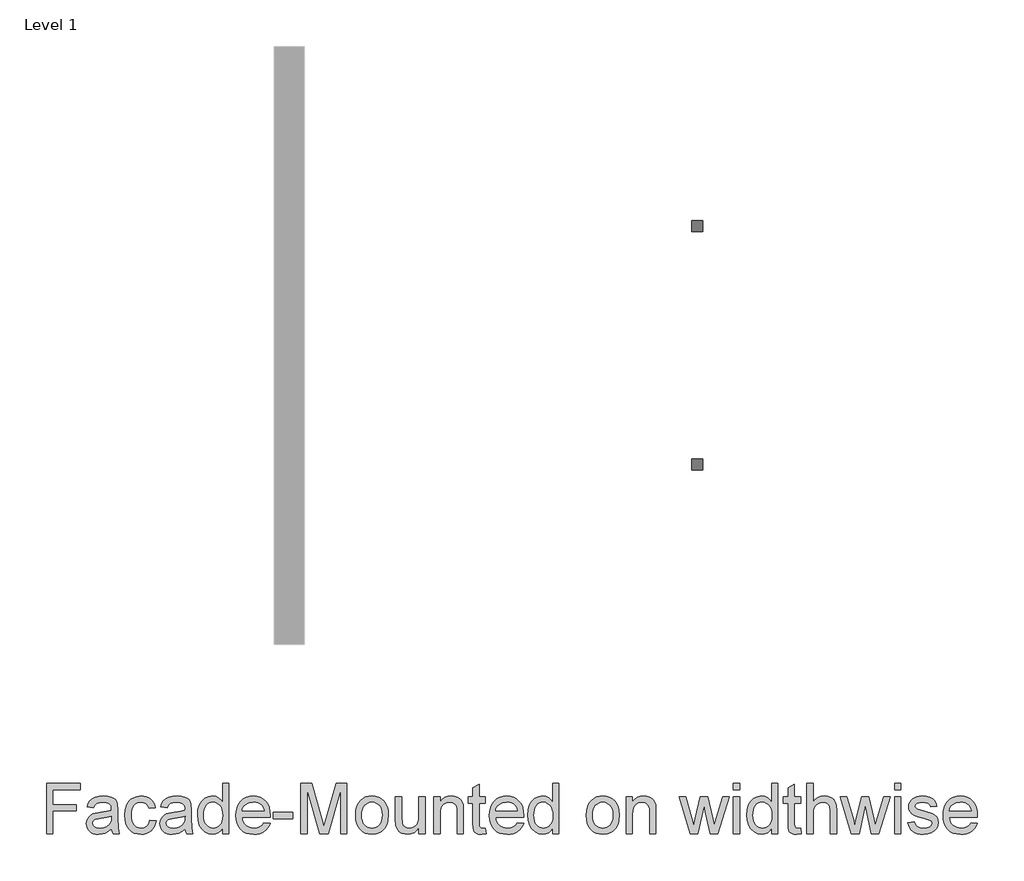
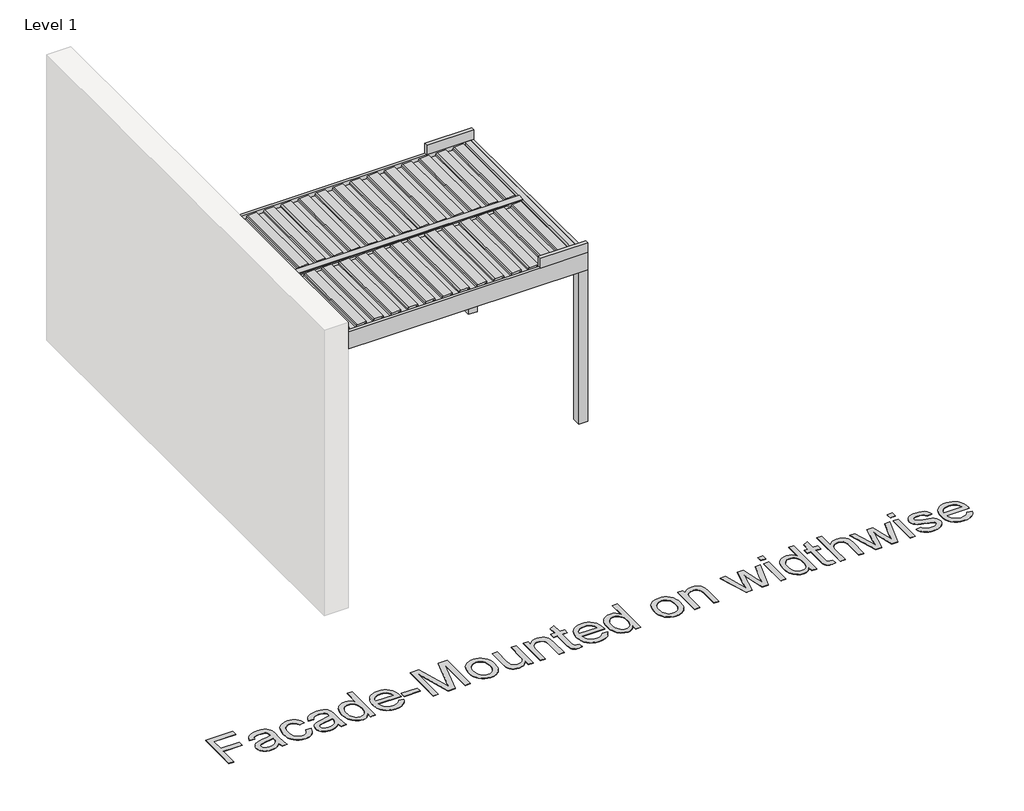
# One storey, part 30 of 47: 2 proxies.
"""IFC4 building model written with IfcOpenShell, lengths in millimetres."""

from ifc_helpers import new_model, si_unit, origin, origin_with_axes, place, context, project, spatial, polyline, outline, extrude, transform, mapped, element, save
from components import generic_models_c11a03fd

model = new_model("IFC4")

# Units and contexts
model_context = context("Model", 3, world=origin())
ifc_project = project(units=[si_unit("LENGTHUNIT", "METRE", prefix="MILLI")], contexts=[model_context])

# Site, building, storey
site = spatial("IfcSite", under=ifc_project)
building = spatial("IfcBuilding", under=site)
storey = spatial("IfcBuildingStorey", under=building, Name="Level 1", Elevation=0.0)

# Proxies
placement = place(None, origin())
generic_models_shape = generic_models_c11a03fd(model_context)
element("IfcBuildingElementProxy", 1, Name="Renson_Algarve_Single Unit With Intermediate Beam : Algarve - Single Unit With Intermediate Beam", ObjectType="Renson_Algarve_Single Unit With Intermediate Beam : Algarve - Single Unit With Intermediate Beam", at=placement, inside=storey, context=model_context, shape_type="MappedRepresentation", body=[
    mapped(generic_models_shape, transform((91611.1079671, 41397.1593685, 0.0), x_axis=(1.0, 0.0, 0.0), y_axis=(0.0, 1.0, 0.0), z_axis=(0.0, 0.0, 1.0))),
])
element("IfcBuildingElementProxy", 2, Name="500mm Arial", ObjectType="500mm Arial", at=placement, inside=storey, context=model_context, shape_type="SweptSolid", body=[
    extrude(outline(polyline([(87026.4756429, 35872.1593685), (87026.4756429, 36374.4409192), (87363.9460598, 36374.4409192), (87363.9460598, 36311.6557254), (87089.2608368, 36311.6557254), (87089.2608368, 36162.54089), (87324.7053137, 36162.54089), (87324.7053137, 36099.7556962), (87089.2608368, 36099.7556962), (87089.2608368, 35872.1593685), (87026.4756429, 35872.1593685)])), origin_with_axes(), (0.0, 0.0, 1.0), 5.0),
    extrude(outline(polyline([(87677.872029, 35919.2482639), (87647.874318, 35893.527181), (87616.9875588, 35876.6965797), (87584.5066444, 35867.4075594), (87549.7264674, 35864.3112192), (87521.7712679, 35866.1736218), (87497.2572978, 35871.7608296), (87476.1845573, 35881.0728426), (87458.5530463, 35894.1096608), (87444.631012, 35910.0435498), (87434.6867018, 35928.0467749), (87428.7201157, 35948.1193363), (87426.7312537, 35970.2612338), (87429.7356233, 35996.288885), (87438.7487322, 36019.9253032), (87452.6516059, 36040.1588129), (87470.3252701, 36055.9777387), (87491.0952744, 36067.9339036), (87514.2871685, 36076.5791305), (87568.6110765, 36086.021435), (87632.8064846, 36095.9542489), (87677.5041471, 36107.6038454), (87677.872029, 36121.5833612), (87673.5494156, 36149.6037065), (87660.5815753, 36167.9364926), (87647.506436, 36175.8766123), (87631.5802113, 36181.5481264), (87591.1745055, 36186.0853377), (87553.7731693, 36183.0656396), (87527.6535477, 36174.0065455), (87509.8419277, 36157.2525863), (87497.3645967, 36131.1482931), (87434.5794029, 36138.9964423), (87445.477907, 36173.3320952), (87461.7413569, 36200.3101082), (87484.8872657, 36220.9421567), (87516.4331468, 36236.2399164), (87555.0147711, 36245.7128777), (87599.2679094, 36248.8705315), (87641.7122946, 36246.0807597), (87675.3581687, 36237.7114443), (87700.726698, 36225.1268144), (87718.3390485, 36209.691099), (87730.0193019, 36190.6072205), (87737.5915396, 36167.0781013), (87740.6572229, 36112.1410567), (87740.6572229, 36034.0274463), (87743.8455335, 35924.9504348), (87748.5666858, 35897.9877502), (87756.3535214, 35872.1593685), (87693.5683275, 35872.1593685), (87683.5128863, 35893.9870335), (87677.872029, 35919.2482639)]), holes=[polyline([(87677.872029, 36044.8186515), (87635.6882269, 36034.3646715), (87576.581853, 36025.5661605), (87522.5645134, 36015.3880919), (87508.5083555, 36008.4289908), (87498.1003607, 35998.8334021), (87491.6624258, 35987.3370898), (87489.5164475, 35974.6758178), (87494.1916145, 35956.0058065), (87508.2171156, 35940.7080469), (87531.2863824, 35930.4993215), (87563.0928466, 35927.0964131), (87596.8153628, 35930.8518751), (87626.6138044, 35942.1182612), (87650.7713887, 35958.7189363), (87667.5713332, 35978.4772651), (87675.0209436, 35998.8334021), (87677.5041471, 36027.0376884), (87677.872029, 36044.8186515)])]), origin_with_axes(), (0.0, 0.0, 1.0), 5.0),
    extrude(outline(polyline([(88062.4313413, 36005.5779054), (88125.2165352, 35997.7297562), (88118.3877256, 35968.1037592), (88107.7114836, 35941.888335), (88093.187809, 35919.0834834), (88074.8167018, 35899.6892044), (88053.3722472, 35884.2113359), (88029.6285301, 35873.1557155), (88003.5855505, 35866.5223433), (87975.2433085, 35864.3112192), (87940.0301038, 35867.3960631), (87908.4573979, 35876.6505945), (87880.525191, 35892.0748136), (87856.233483, 35913.6687203), (87836.5709568, 35941.0261115), (87822.5262952, 35973.7407844), (87814.0994983, 36011.8127388), (87811.290566, 36055.2419747), (87816.0883603, 36111.1140528), (87830.4817434, 36159.5365204), (87841.3342622, 36180.4866336), (87854.7006414, 36198.6393108), (87870.5808809, 36213.994552), (87888.9749806, 36226.5523572), (87929.9784947, 36243.2909879), (87974.3849172, 36248.8705315), (88002.240482, 36246.9544795), (88027.4365665, 36241.2063233), (88049.9731709, 36231.626063), (88069.8502949, 36218.2136986), (88086.7307135, 36201.2757984), (88100.2772016, 36181.1189308), (88110.4897591, 36157.7430956), (88117.368386, 36131.1482931), (88054.5831921, 36123.3001438), (88043.1941787, 36150.6920241), (88025.4592008, 36170.3277256), (88002.3592772, 36182.1459347), (87974.8754265, 36186.0853377), (87953.5421029, 36184.146293), (87934.3011081, 36178.329159), (87917.1524422, 36168.6339355), (87902.0961051, 36155.0606228), (87889.837204, 36137.2949881), (87881.0808461, 36115.022799), (87875.8270314, 36088.2440554), (87874.0757598, 36056.9587574), (87875.7887103, 36025.2021106), (87880.927562, 35998.1129666), (87889.4923147, 35975.6913254), (87901.4829684, 35957.937187), (87916.2404014, 35944.4443484), (87933.1054916, 35934.8066066), (87952.0782391, 35929.0239615), (87973.1586438, 35927.0964131), (88005.6702152, 35931.9095359), (88032.3263314, 35946.3489042), (88043.1060403, 35957.2704009), (88051.7167782, 35970.7824), (88062.4313413, 36005.5779054)])), origin_with_axes(), (0.0, 0.0, 1.0), 5.0),
    extrude(outline(polyline([(88415.5980567, 35919.2482639), (88385.6003457, 35893.527181), (88354.7135865, 35876.6965797), (88322.232672, 35867.4075594), (88287.4524951, 35864.3112192), (88259.4972955, 35866.1736218), (88234.9833255, 35871.7608296), (88213.910585, 35881.0728426), (88196.2790739, 35894.1096608), (88182.3570397, 35910.0435498), (88172.4127295, 35928.0467749), (88166.4461434, 35948.1193363), (88164.4572813, 35970.2612338), (88167.461651, 35996.288885), (88176.4747598, 36019.9253032), (88190.3776336, 36040.1588129), (88208.0512978, 36055.9777387), (88228.8213021, 36067.9339036), (88252.0131962, 36076.5791305), (88306.3371041, 36086.021435), (88370.5325123, 36095.9542489), (88415.2301747, 36107.6038454), (88415.5980567, 36121.5833612), (88411.2754433, 36149.6037065), (88398.3076029, 36167.9364926), (88385.2324637, 36175.8766123), (88369.306239, 36181.5481264), (88328.9005332, 36186.0853377), (88291.499197, 36183.0656396), (88265.3795753, 36174.0065455), (88247.5679554, 36157.2525863), (88235.0906244, 36131.1482931), (88172.3054306, 36138.9964423), (88183.2039347, 36173.3320952), (88199.4673845, 36200.3101082), (88222.6132934, 36220.9421567), (88254.1591745, 36236.2399164), (88292.7407987, 36245.7128777), (88336.9939371, 36248.8705315), (88379.4383223, 36246.0807597), (88413.0841964, 36237.7114443), (88438.4527257, 36225.1268144), (88456.0650762, 36209.691099), (88467.7453295, 36190.6072205), (88475.3175673, 36167.0781013), (88478.3832506, 36112.1410567), (88478.3832506, 36034.0274463), (88481.5715612, 35924.9504348), (88486.2927134, 35897.9877502), (88494.079549, 35872.1593685), (88431.2943552, 35872.1593685), (88421.238914, 35893.9870335), (88415.5980567, 35919.2482639)]), holes=[polyline([(88415.5980567, 36044.8186515), (88373.4142546, 36034.3646715), (88314.3078807, 36025.5661605), (88260.2905411, 36015.3880919), (88246.2343832, 36008.4289908), (88235.8263884, 35998.8334021), (88229.3884535, 35987.3370898), (88227.2424752, 35974.6758178), (88231.9176422, 35956.0058065), (88245.9431433, 35940.7080469), (88269.01241, 35930.4993215), (88300.8188742, 35927.0964131), (88334.5413904, 35930.8518751), (88364.339832, 35942.1182612), (88388.4974164, 35958.7189363), (88405.2973608, 35978.4772651), (88412.7469712, 35998.8334021), (88415.2301747, 36027.0376884), (88415.5980567, 36044.8186515)])]), origin_with_axes(), (0.0, 0.0, 1.0), 5.0),
    extrude(outline(polyline([(88792.3092198, 35872.1593685), (88792.3092198, 35931.3883697), (88773.5242454, 35902.0421164), (88750.7692111, 35881.0805069), (88724.044117, 35868.5035411), (88693.3489631, 35864.3112192), (88652.7593163, 35870.3812722), (88615.6032348, 35888.5914309), (88584.1493242, 35917.669437), (88560.6661901, 35956.3430317), (88546.0428808, 36003.0487167), (88541.1684444, 36056.2229934), (88545.6596704, 36108.7381482), (88559.1333485, 36156.1642687), (88569.2347749, 36177.2944908), (88581.5741502, 36195.8035537), (88596.1514743, 36211.6914574), (88612.9667471, 36224.9582018), (88650.9352347, 36242.8924491), (88693.1037084, 36248.8705315), (88723.821855, 36244.5939033), (88750.983809, 36231.7640188), (88774.0070905, 36212.0976604), (88792.3092198, 36187.311611), (88792.3092198, 36374.4409192), (88855.0944136, 36374.4409192), (88855.0944136, 35872.1593685), (88792.3092198, 35872.1593685)]), holes=[polyline([(88603.9536382, 36056.4682481), (88605.7240703, 36026.0221808), (88611.0353666, 35999.676465), (88619.8875272, 35977.4311007), (88632.2805519, 35959.2860877), (88647.080138, 35945.203105), (88663.1519826, 35935.1438317), (88680.4960859, 35929.1082677), (88699.1124477, 35927.0964131), (88717.8169478, 35929.0162972), (88735.0575843, 35934.7759497), (88750.8343569, 35944.3753705), (88765.1472658, 35957.8145597), (88777.0306207, 35975.2008161), (88785.5187313, 35996.6414386), (88790.6115976, 36022.1364273), (88792.3092198, 36051.6857821), (88790.5809408, 36084.0823903), (88785.3961039, 36111.8651452), (88776.7547092, 36135.0340466), (88764.6567565, 36153.5890948), (88750.0296151, 36167.8062011), (88733.8006541, 36177.961277), (88715.9698737, 36184.0543225), (88696.5372737, 36186.0853377), (88677.5530299, 36184.1347967), (88660.2089267, 36178.2831737), (88644.504964, 36168.5304687), (88630.4411419, 36154.8766818), (88618.852859, 36137.0229087), (88610.5755142, 36114.6702454), (88605.6091072, 36087.8186918), (88603.9536382, 36056.4682481)])]), origin_with_axes(), (0.0, 0.0, 1.0), 5.0),
    extrude(outline(polyline([(89207.525365, 35982.0334577), (89269.0842855, 35974.1853085), (89259.6458131, 35949.5295506), (89246.9040669, 35927.8015202), (89230.859047, 35909.0012174), (89211.5107533, 35893.1286422), (89189.0584553, 35880.5210197), (89163.7014223, 35871.515575), (89135.4396545, 35866.1123082), (89104.2731517, 35864.3112192), (89065.3159812, 35867.4190557), (89030.6047821, 35876.742565), (89000.1395544, 35892.2817472), (88973.9202981, 35914.0366023), (88952.8360612, 35941.4016577), (88937.775892, 35973.7714412), (88928.7397905, 36011.1459527), (88925.7277567, 36053.5251921), (88928.7704474, 36097.3414706), (88937.8985194, 36135.9614158), (88953.1119727, 36169.3850279), (88974.4108074, 36197.6123069), (89000.5610859, 36220.0377802), (89030.3288706, 36236.0559754), (89063.7141617, 36245.6668925), (89100.7169591, 36248.8705315), (89136.527972, 36245.6745567), (89168.9130839, 36236.0866322), (89197.8722947, 36220.106758), (89223.4056044, 36197.7349342), (89244.2484187, 36169.5689689), (89259.1361432, 36136.2066705), (89268.0687779, 36097.6480389), (89271.0463228, 36053.8930741), (89270.6784408, 36036.9705023), (88988.5129505, 36036.9705023), (88992.1496173, 36011.9162056), (88999.3807978, 35989.9735774), (89010.2064919, 35971.1426178), (89024.6266997, 35955.4233267), (89041.8443435, 35943.030302), (89061.0623457, 35934.1781415), (89082.2807062, 35928.8668452), (89105.499425, 35927.0964131), (89138.9153729, 35930.3766942), (89167.0583455, 35940.2175376), (89189.9283429, 35957.2320799), (89207.525365, 35982.0334577)]), holes=[polyline([(88988.5129505, 36099.7556962), (89208.261129, 36099.7556962), (89199.7691863, 36132.9263894), (89183.122526, 36156.6547781), (89166.0006848, 36169.5306479), (89146.5182675, 36178.7276978), (89124.675274, 36184.2459277), (89100.4717044, 36186.0853377), (89058.1499465, 36180.2145542), (89039.7366863, 36172.8760748), (89023.1551717, 36162.6022037), (89009.2408017, 36149.8681217), (88998.8289748, 36135.1490098), (88991.9196911, 36118.4448679), (88988.5129505, 36099.7556962)])]), origin_with_axes(), (0.0, 0.0, 1.0), 5.0),
    extrude(outline(polyline([(89302.4389197, 36021.2742038), (89302.4389197, 36084.0593977), (89498.6426505, 36084.0593977), (89498.6426505, 36021.2742038), (89302.4389197, 36021.2742038)])), origin_with_axes(), (0.0, 0.0, 1.0), 5.0),
    extrude(outline(polyline([(89577.1241428, 35872.1593685), (89577.1241428, 36374.4409192), (89685.1588221, 36374.4409192), (89787.920526, 36020.4158125), (89808.6445451, 35946.4715315), (89831.0853468, 36026.5471791), (89932.1302682, 36374.4409192), (90040.1649474, 36374.4409192), (90040.1649474, 35872.1593685), (89977.3797536, 35872.1593685), (89977.3797536, 36311.6557254), (89851.1962292, 35872.1593685), (89766.092861, 35872.1593685), (89639.9093367, 36311.6557254), (89639.9093367, 35872.1593685), (89577.1241428, 35872.1593685)])), origin_with_axes(), (0.0, 0.0, 1.0), 5.0),
    extrude(outline(polyline([(90126.4945889, 36056.5908754), (90129.8898332, 36104.3618853), (90140.0755659, 36145.5263477), (90157.0517872, 36180.0842626), (90180.8184969, 36208.0356301), (90204.746155, 36225.9008995), (90231.1570166, 36238.6618062), (90260.0510816, 36246.3183502), (90291.4283501, 36248.8705315), (90326.0667392, 36245.7626951), (90357.3865262, 36236.4391858), (90385.3877109, 36220.9000036), (90410.0702936, 36199.1451485), (90430.2156649, 36171.9103846), (90444.6052159, 36139.9314757), (90453.2389464, 36103.208422), (90456.1168566, 36061.7412233), (90451.0278224, 35998.312236), (90444.6665295, 35972.2769206), (90435.7607196, 35950.0277241), (90424.4215235, 35930.809722), (90410.7600723, 35913.8679897), (90394.776366, 35899.2025272), (90376.4704047, 35886.8133346), (90335.7428021, 35869.9367481), (90291.4283501, 35864.3112192), (90256.2841233, 35867.4075594), (90224.6730964, 35876.6965797), (90196.5952695, 35892.1782804), (90172.0506427, 35913.8526613), (90152.1198692, 35941.3518404), (90137.8836024, 35974.3079358), (90129.3418423, 36012.7209475), (90126.4945889, 36056.5908754)]), holes=[polyline([(90189.2797828, 36056.7135027), (90191.0962001, 36026.2597713), (90196.5454522, 35999.8910629), (90205.6275389, 35977.6073774), (90218.3424604, 35959.408715), (90233.8088326, 35945.2720829), (90251.1452716, 35935.1744886), (90270.3517775, 35929.115932), (90291.4283501, 35927.0964131), (90312.3976238, 35929.1274283), (90331.5274876, 35935.2204738), (90348.8179414, 35945.3755497), (90364.2689852, 35959.592656), (90376.9839066, 35977.9714273), (90386.0659934, 36000.6114985), (90391.5152454, 36027.5128693), (90393.3316628, 36058.67554), (90391.5037491, 36088.1635812), (90386.0200081, 36113.8425109), (90376.8804398, 36135.7123291), (90364.0850442, 36153.7730358), (90348.5765188, 36167.9096679), (90331.2975613, 36178.0072622), (90312.2481718, 36184.0658188), (90291.4283501, 36186.0853377), (90270.3517775, 36184.073483), (90251.1452716, 36178.037919), (90233.8088326, 36167.9786457), (90218.3424604, 36153.8956631), (90205.6275389, 36135.7506501), (90196.5454522, 36113.5052857), (90191.0962001, 36087.1595699), (90189.2797828, 36056.7135027)])]), origin_with_axes(), (0.0, 0.0, 1.0), 5.0),
    extrude(outline(polyline([(90762.1946766, 35872.1593685), (90762.1946766, 35935.557699), (90739.4779634, 35904.3873641), (90713.0211166, 35882.1228392), (90682.8241361, 35868.7641242), (90648.8870221, 35864.3112192), (90618.3068312, 35867.4382162), (90589.8419619, 35876.8192071), (90565.960289, 35890.9213502), (90549.1296877, 35908.211804), (90537.801988, 35929.2117346), (90530.4290196, 35954.4423081), (90526.7501997, 36012.812918), (90526.7501997, 36241.0223823), (90589.5353935, 36241.0223823), (90589.5353935, 36042.3661049), (90593.3368408, 35978.3546377), (90602.4879055, 35957.0021536), (90618.1688755, 35940.7693606), (90639.3374186, 35930.51465), (90664.9512025, 35927.0964131), (90692.0365144, 35930.591292), (90717.3743869, 35941.0759289), (90738.2670185, 35957.5846334), (90752.0166081, 35979.1517154), (90759.6501595, 36008.6895739), (90762.1946766, 36049.1106081), (90762.1946766, 36241.0223823), (90824.9798705, 36241.0223823), (90824.9798705, 35872.1593685), (90762.1946766, 35872.1593685)])), origin_with_axes(), (0.0, 0.0, 1.0), 5.0),
    extrude(outline(polyline([(90911.309512, 35872.1593685), (90911.309512, 36241.0223823), (90974.0947058, 36241.0223823), (90974.0947058, 36189.518903), (90995.9070425, 36215.4852405), (91022.1033062, 36234.0326244), (91052.683497, 36245.1610547), (91087.647615, 36248.8705315), (91118.5956879, 36245.8814903), (91146.9379299, 36236.9143667), (91170.5743481, 36223.088135), (91187.4049494, 36205.5217698), (91198.8246196, 36184.2612561), (91206.2282448, 36159.3525794), (91209.5391827, 36098.6520502), (91209.5391827, 35872.1593685), (91146.7539889, 35872.1593685), (91146.7539889, 36090.1907643), (91144.9452358, 36122.6563504), (91139.5189763, 36145.7409455), (91129.5095204, 36162.2803069), (91113.9511777, 36175.1101915), (91094.0089078, 36183.3415511), (91070.8476706, 36186.0853377), (91051.7829526, 36184.5448318), (91034.0747995, 36179.9233143), (91017.7232112, 36172.220785), (91002.7281878, 36161.437244), (90990.2010394, 36146.346418), (90981.2530763, 36125.7220336), (90975.8842985, 36099.5640909), (90974.0947058, 36067.8725899), (90974.0947058, 35872.1593685), (90911.309512, 35872.1593685)])), origin_with_axes(), (0.0, 0.0, 1.0), 5.0),
    extrude(outline(polyline([(91429.2873612, 35924.5212391), (91437.1355104, 35870.3199585), (91390.1692424, 35864.3112192), (91360.0335756, 35866.91705), (91337.5621171, 35874.7345424), (91321.6818776, 35886.7826778), (91311.3198681, 35902.0804374), (91305.6176971, 35928.3533432), (91303.7169735, 35973.3269171), (91303.7169735, 36178.2371885), (91256.6280781, 36178.2371885), (91256.6280781, 36241.0223823), (91303.7169735, 36241.0223823), (91303.7169735, 36330.6629618), (91366.5021674, 36367.5737886), (91366.5021674, 36241.0223823), (91429.2873612, 36241.0223823), (91429.2873612, 36178.2371885), (91366.5021674, 36178.2371885), (91366.5021674, 35975.1663271), (91369.8131053, 35942.7927115), (91380.5429968, 35931.327056), (91401.9414662, 35927.0964131), (91429.2873612, 35924.5212391)])), origin_with_axes(), (0.0, 0.0, 1.0), 5.0),
    extrude(outline(polyline([(91750.3257157, 35982.0334577), (91811.8846362, 35974.1853085), (91802.4461637, 35949.5295506), (91789.7044176, 35927.8015202), (91773.6593976, 35909.0012174), (91754.3111039, 35893.1286422), (91731.8588059, 35880.5210197), (91706.501773, 35871.515575), (91678.2400051, 35866.1123082), (91647.0735023, 35864.3112192), (91608.1163319, 35867.4190557), (91573.4051328, 35876.742565), (91542.9399051, 35892.2817472), (91516.7206487, 35914.0366023), (91495.6364119, 35941.4016577), (91480.5762427, 35973.7714412), (91471.5401412, 36011.1459527), (91468.5281073, 36053.5251921), (91471.570798, 36097.3414706), (91480.69887, 36135.9614158), (91495.9123234, 36169.3850279), (91517.211158, 36197.6123069), (91543.3614365, 36220.0377802), (91573.1292213, 36236.0559754), (91606.5145124, 36245.6668925), (91643.5173097, 36248.8705315), (91679.3283227, 36245.6745567), (91711.7134346, 36236.0866322), (91740.6726454, 36220.106758), (91766.2059551, 36197.7349342), (91787.0487694, 36169.5689689), (91801.9364939, 36136.2066705), (91810.8691286, 36097.6480389), (91813.8466735, 36053.8930741), (91813.4787915, 36036.9705023), (91531.3133012, 36036.9705023), (91534.949968, 36011.9162056), (91542.1811485, 35989.9735774), (91553.0068426, 35971.1426178), (91567.4270504, 35955.4233267), (91584.6446942, 35943.030302), (91603.8626963, 35934.1781415), (91625.0810568, 35928.8668452), (91648.2997757, 35927.0964131), (91681.7157236, 35930.3766942), (91709.8586962, 35940.2175376), (91732.7286936, 35957.2320799), (91750.3257157, 35982.0334577)]), holes=[polyline([(91531.3133012, 36099.7556962), (91751.0614796, 36099.7556962), (91742.5695369, 36132.9263894), (91725.9228766, 36156.6547781), (91708.8010354, 36169.5306479), (91689.3186181, 36178.7276978), (91667.4756247, 36184.2459277), (91643.2720551, 36186.0853377), (91600.9502972, 36180.2145542), (91582.5370369, 36172.8760748), (91565.9555224, 36162.6022037), (91552.0411524, 36149.8681217), (91541.6293255, 36135.1490098), (91534.7200418, 36118.4448679), (91531.3133012, 36099.7556962)])]), origin_with_axes(), (0.0, 0.0, 1.0), 5.0),
    extrude(outline(polyline([(92104.228195, 35872.1593685), (92104.228195, 35931.3883697), (92085.4432206, 35902.0421164), (92062.6881864, 35881.0805069), (92035.9630923, 35868.5035411), (92005.2679383, 35864.3112192), (91964.6782915, 35870.3812722), (91927.52221, 35888.5914309), (91896.0682994, 35917.669437), (91872.5851654, 35956.3430317), (91857.9618561, 36003.0487167), (91853.0874196, 36056.2229934), (91857.5786457, 36108.7381482), (91871.0523237, 36156.1642687), (91881.1537502, 36177.2944908), (91893.4931254, 36195.8035537), (91908.0704495, 36211.6914574), (91924.8857224, 36224.9582018), (91962.8542099, 36242.8924491), (92005.0226836, 36248.8705315), (92035.7408302, 36244.5939033), (92062.9027842, 36231.7640188), (92085.9260658, 36212.0976604), (92104.228195, 36187.311611), (92104.228195, 36374.4409192), (92167.0133889, 36374.4409192), (92167.0133889, 35872.1593685), (92104.228195, 35872.1593685)]), holes=[polyline([(91915.8726135, 36056.4682481), (91917.6430456, 36026.0221808), (91922.9543419, 35999.676465), (91931.8065024, 35977.4311007), (91944.1995271, 35959.2860877), (91958.9991132, 35945.203105), (91975.0709579, 35935.1438317), (91992.4150611, 35929.1082677), (92011.0314229, 35927.0964131), (92029.7359231, 35929.0162972), (92046.9765595, 35934.7759497), (92062.7533322, 35944.3753705), (92077.066241, 35957.8145597), (92088.9495959, 35975.2008161), (92097.4377065, 35996.6414386), (92102.5305729, 36022.1364273), (92104.228195, 36051.6857821), (92102.4999161, 36084.0823903), (92097.3150792, 36111.8651452), (92088.6736844, 36135.0340466), (92076.5757317, 36153.5890948), (92061.9485903, 36167.8062011), (92045.7196294, 36177.961277), (92027.8888489, 36184.0543225), (92008.4562489, 36186.0853377), (91989.4720051, 36184.1347967), (91972.1279019, 36178.2831737), (91956.4239392, 36168.5304687), (91942.3601171, 36154.8766818), (91930.7718343, 36137.0229087), (91922.4944894, 36114.6702454), (91917.5280825, 36087.8186918), (91915.8726135, 36056.4682481)])]), origin_with_axes(), (0.0, 0.0, 1.0), 5.0),
    extrude(outline(polyline([(92441.6986119, 36056.5908754), (92445.0938562, 36104.3618853), (92455.2795889, 36145.5263477), (92472.2558101, 36180.0842626), (92496.0225199, 36208.0356301), (92519.950178, 36225.9008995), (92546.3610395, 36238.6618062), (92575.2551046, 36246.3183502), (92606.6323731, 36248.8705315), (92641.2707622, 36245.7626951), (92672.5905491, 36236.4391858), (92700.5917339, 36220.9000036), (92725.2743165, 36199.1451485), (92745.4196879, 36171.9103846), (92759.8092388, 36139.9314757), (92768.4429694, 36103.208422), (92771.3208796, 36061.7412233), (92766.2318453, 35998.312236), (92759.8705525, 35972.2769206), (92750.9647425, 35950.0277241), (92739.6255465, 35930.809722), (92725.9640953, 35913.8679897), (92709.980389, 35899.2025272), (92691.6744276, 35886.8133346), (92650.9468251, 35869.9367481), (92606.6323731, 35864.3112192), (92571.4881462, 35867.4075594), (92539.8771194, 35876.6965797), (92511.7992925, 35892.1782804), (92487.2546657, 35913.8526613), (92467.3238921, 35941.3518404), (92453.0876254, 35974.3079358), (92444.5458653, 36012.7209475), (92441.6986119, 36056.5908754)]), holes=[polyline([(92504.4838058, 36056.7135027), (92506.3002231, 36026.2597713), (92511.7494752, 35999.8910629), (92520.8315619, 35977.6073774), (92533.5464834, 35959.408715), (92549.0128556, 35945.2720829), (92566.3492946, 35935.1744886), (92585.5558005, 35929.115932), (92606.6323731, 35927.0964131), (92627.6016468, 35929.1274283), (92646.7315106, 35935.2204738), (92664.0219643, 35945.3755497), (92679.4730081, 35959.592656), (92692.1879296, 35977.9714273), (92701.2700164, 36000.6114985), (92706.7192684, 36027.5128693), (92708.5356858, 36058.67554), (92706.7077721, 36088.1635812), (92701.2240311, 36113.8425109), (92692.0844628, 36135.7123291), (92679.2890671, 36153.7730358), (92663.7805418, 36167.9096679), (92646.5015843, 36178.0072622), (92627.4521948, 36184.0658188), (92606.6323731, 36186.0853377), (92585.5558005, 36184.073483), (92566.3492946, 36178.037919), (92549.0128556, 36167.9786457), (92533.5464834, 36153.8956631), (92520.8315619, 36135.7506501), (92511.7494752, 36113.5052857), (92506.3002231, 36087.1595699), (92504.4838058, 36056.7135027)])]), origin_with_axes(), (0.0, 0.0, 1.0), 5.0),
    extrude(outline(polyline([(92841.9542227, 35872.1593685), (92841.9542227, 36241.0223823), (92904.7394165, 36241.0223823), (92904.7394165, 36189.518903), (92926.5517531, 36215.4852405), (92952.7480169, 36234.0326244), (92983.3282077, 36245.1610547), (93018.2923257, 36248.8705315), (93049.2403985, 36245.8814903), (93077.5826406, 36236.9143667), (93101.2190588, 36223.088135), (93118.0496601, 36205.5217698), (93129.4693303, 36184.2612561), (93136.8729555, 36159.3525794), (93140.1838934, 36098.6520502), (93140.1838934, 35872.1593685), (93077.3986996, 35872.1593685), (93077.3986996, 36090.1907643), (93075.5899464, 36122.6563504), (93070.163687, 36145.7409455), (93060.1542311, 36162.2803069), (93044.5958884, 36175.1101915), (93024.6536185, 36183.3415511), (93001.4923812, 36186.0853377), (92982.4276633, 36184.5448318), (92964.7195101, 36179.9233143), (92948.3679219, 36172.220785), (92933.3728985, 36161.437244), (92920.8457501, 36146.346418), (92911.897787, 36125.7220336), (92906.5290091, 36099.5640909), (92904.7394165, 36067.8725899), (92904.7394165, 35872.1593685), (92841.9542227, 35872.1593685)])), origin_with_axes(), (0.0, 0.0, 1.0), 5.0),
    extrude(outline(polyline([(93483.9083043, 35872.1593685), (93371.7042957, 36241.0223823), (93436.9420362, 36241.0223823), (93500.5856214, 36025.8114151), (93519.5928578, 35948.9240781), (93535.1665289, 36022.9909865), (93585.8116169, 36241.0223823), (93660.6142893, 36241.0223823), (93711.0141226, 36023.6041232), (93724.8710111, 35956.5269727), (93744.7366388, 36027.2829431), (93808.5028513, 36241.0223823), (93873.9858465, 36241.0223823), (93760.9234466, 35872.1593685), (93685.0171283, 35872.1593685), (93636.8245869, 36088.4739816), (93622.8450711, 36155.9190141), (93560.6730139, 35872.1593685), (93483.9083043, 35872.1593685)])), origin_with_axes(), (0.0, 0.0, 1.0), 5.0),
    extrude(outline(polyline([(93917.1506672, 36311.6557254), (93917.1506672, 36374.4409192), (93979.9358611, 36374.4409192), (93979.9358611, 36311.6557254), (93917.1506672, 36311.6557254)])), origin_with_axes(), (0.0, 0.0, 1.0), 5.0),
    extrude(outline(polyline([(93917.1506672, 35872.1593685), (93917.1506672, 36241.0223823), (93979.9358611, 36241.0223823), (93979.9358611, 35872.1593685), (93917.1506672, 35872.1593685)])), origin_with_axes(), (0.0, 0.0, 1.0), 5.0),
    extrude(outline(polyline([(94301.7099795, 35872.1593685), (94301.7099795, 35931.3883697), (94282.9250052, 35902.0421164), (94260.1699709, 35881.0805069), (94233.4448768, 35868.5035411), (94202.7497228, 35864.3112192), (94162.160076, 35870.3812722), (94125.0039945, 35888.5914309), (94093.5500839, 35917.669437), (94070.0669499, 35956.3430317), (94055.4436406, 36003.0487167), (94050.5692042, 36056.2229934), (94055.0604302, 36108.7381482), (94068.5341083, 36156.1642687), (94078.6355347, 36177.2944908), (94090.97491, 36195.8035537), (94105.552234, 36211.6914574), (94122.3675069, 36224.9582018), (94160.3359945, 36242.8924491), (94202.5044682, 36248.8705315), (94233.2226148, 36244.5939033), (94260.3845687, 36231.7640188), (94283.4078503, 36212.0976604), (94301.7099795, 36187.311611), (94301.7099795, 36374.4409192), (94364.4951734, 36374.4409192), (94364.4951734, 35872.1593685), (94301.7099795, 35872.1593685)]), holes=[polyline([(94113.354398, 36056.4682481), (94115.1248301, 36026.0221808), (94120.4361264, 35999.676465), (94129.2882869, 35977.4311007), (94141.6813116, 35959.2860877), (94156.4808977, 35945.203105), (94172.5527424, 35935.1438317), (94189.8968456, 35929.1082677), (94208.5132074, 35927.0964131), (94227.2177076, 35929.0162972), (94244.458344, 35934.7759497), (94260.2351167, 35944.3753705), (94274.5480256, 35957.8145597), (94286.4313804, 35975.2008161), (94294.919491, 35996.6414386), (94300.0123574, 36022.1364273), (94301.7099795, 36051.6857821), (94299.9817006, 36084.0823903), (94294.7968637, 36111.8651452), (94286.1554689, 36135.0340466), (94274.0575162, 36153.5890948), (94259.4303748, 36167.8062011), (94243.2014139, 36177.961277), (94225.3706334, 36184.0543225), (94205.9380335, 36186.0853377), (94186.9537897, 36184.1347967), (94169.6096864, 36178.2831737), (94153.9057238, 36168.5304687), (94139.8419017, 36154.8766818), (94128.2536188, 36137.0229087), (94119.9762739, 36114.6702454), (94115.009867, 36087.8186918), (94113.354398, 36056.4682481)])]), origin_with_axes(), (0.0, 0.0, 1.0), 5.0),
    extrude(outline(polyline([(94592.0915011, 35924.5212391), (94599.9396503, 35870.3199585), (94552.9733822, 35864.3112192), (94522.8377155, 35866.91705), (94500.3662569, 35874.7345424), (94484.4860175, 35886.7826778), (94474.1240079, 35902.0804374), (94468.421837, 35928.3533432), (94466.5211134, 35973.3269171), (94466.5211134, 36178.2371885), (94419.432218, 36178.2371885), (94419.432218, 36241.0223823), (94466.5211134, 36241.0223823), (94466.5211134, 36330.6629618), (94529.3063072, 36367.5737886), (94529.3063072, 36241.0223823), (94592.0915011, 36241.0223823), (94592.0915011, 36178.2371885), (94529.3063072, 36178.2371885), (94529.3063072, 35975.1663271), (94532.6172452, 35942.7927115), (94543.3471367, 35931.327056), (94564.7456061, 35927.0964131), (94592.0915011, 35924.5212391)])), origin_with_axes(), (0.0, 0.0, 1.0), 5.0),
    extrude(outline(polyline([(94654.8766949, 35872.1593685), (94654.8766949, 36374.4409192), (94717.6618887, 36374.4409192), (94717.6618887, 36189.7641576), (94740.7234913, 36215.6231962), (94766.6208509, 36234.0939381), (94795.3539676, 36245.1763832), (94826.9228413, 36248.8705315), (94864.8453437, 36244.839158), (94897.4335571, 36232.7450374), (94923.0933262, 36213.5385316), (94940.2304958, 36188.1700023), (94949.8873982, 36153.3131833), (94953.1063657, 36105.6418081), (94953.1063657, 35872.1593685), (94890.3211718, 35872.1593685), (94890.3211718, 36099.1425595), (94885.3241081, 36138.4446193), (94879.0777783, 36153.451139), (94870.3329167, 36165.3613186), (94859.2964569, 36174.428077), (94846.1753324, 36180.9043329), (94813.6790895, 36186.0853377), (94787.1456006, 36182.5904587), (94762.2369238, 36172.1058219), (94741.6048753, 36155.6431026), (94727.9012709, 36134.2139764), (94720.2217343, 36105.7337786), (94717.6618887, 36068.1178446), (94717.6618887, 35872.1593685), (94654.8766949, 35872.1593685)])), origin_with_axes(), (0.0, 0.0, 1.0), 5.0),
    extrude(outline(polyline([(95100.6270457, 35872.1593685), (94988.4230372, 36241.0223823), (95053.6607777, 36241.0223823), (95117.3043628, 36025.8114151), (95136.3115993, 35948.9240781), (95151.8852704, 36022.9909865), (95202.5303584, 36241.0223823), (95277.3330307, 36241.0223823), (95327.7328641, 36023.6041232), (95341.5897526, 35956.5269727), (95361.4553803, 36027.2829431), (95425.2215928, 36241.0223823), (95490.7045879, 36241.0223823), (95377.6421881, 35872.1593685), (95301.7358698, 35872.1593685), (95253.5433284, 36088.4739816), (95239.5638126, 36155.9190141), (95177.3917554, 35872.1593685), (95100.6270457, 35872.1593685)])), origin_with_axes(), (0.0, 0.0, 1.0), 5.0),
    extrude(outline(polyline([(95533.8694087, 36311.6557254), (95533.8694087, 36374.4409192), (95596.6546026, 36374.4409192), (95596.6546026, 36311.6557254), (95533.8694087, 36311.6557254)])), origin_with_axes(), (0.0, 0.0, 1.0), 5.0),
    extrude(outline(polyline([(95533.8694087, 35872.1593685), (95533.8694087, 36241.0223823), (95596.6546026, 36241.0223823), (95596.6546026, 35872.1593685), (95533.8694087, 35872.1593685)])), origin_with_axes(), (0.0, 0.0, 1.0), 5.0),
    extrude(outline(polyline([(95667.2879456, 35982.0334577), (95730.0731395, 35989.8816069), (95739.9752965, 35963.0262213), (95759.1358171, 35943.2832209), (95787.6773286, 35931.143115), (95825.7224582, 35927.0964131), (95863.3077354, 35930.8058899), (95889.7339254, 35941.9343202), (95905.3689102, 35958.0598143), (95910.5805718, 35976.7604824), (95905.3382533, 35992.7633492), (95889.6112981, 36004.9647687), (95824.9866942, 36022.8683592), (95767.6890735, 36039.4383774), (95730.4410215, 36053.5865058), (95706.5133634, 36069.0222211), (95689.1769243, 36089.4550003), (95678.6463022, 36113.5819278), (95675.1360949, 36140.1000883), (95677.9565235, 36164.4262852), (95686.4178094, 36186.8824153), (95699.7535317, 36206.5794305), (95717.1972696, 36222.6282825), (95734.5337087, 36232.729709), (95757.1124661, 36241.2063233), (95783.2167594, 36246.9544795), (95811.1298057, 36248.8705315), (95851.995364, 36245.7895198), (95887.5266334, 36236.5464847), (95916.0988017, 36222.0458027), (95936.0870568, 36203.1918505), (95949.3308086, 36178.589742), (95957.6694672, 36146.8445915), (95894.8842733, 36138.9964423), (95886.959482, 36158.7547711), (95871.278512, 36173.6386635), (95847.688079, 36182.9736691), (95816.034899, 36186.0853377), (95779.9824635, 36183.1116249), (95755.9475065, 36174.1904865), (95742.4278431, 36161.3146167), (95737.9212887, 36146.4767095), (95739.7913555, 36136.8198072), (95745.4015559, 36128.2052371), (95754.9971446, 36120.510372), (95768.8233763, 36114.3483486), (95822.9020296, 36100.9819695), (95915.0564694, 36071.4287825), (95939.3979947, 36057.2959825), (95957.8534082, 36037.951521), (95969.4876763, 36013.3340841), (95973.3657656, 35983.3823583), (95968.8132259, 35952.4189571), (95955.1556069, 35923.2949658), (95932.9140746, 35898.2943185), (95902.6097952, 35879.7009494), (95866.0055367, 35868.1586518), (95824.8640669, 35864.3112192), (95791.0725728, 35866.1659576), (95761.5577069, 35871.7301728), (95736.3194692, 35881.0038648), (95715.3578597, 35893.9870335), (95698.2360185, 35910.6183654), (95684.5170857, 35930.8365467), (95674.2010615, 35954.6415775), (95667.2879456, 35982.0334577)])), origin_with_axes(), (0.0, 0.0, 1.0), 5.0),
    extrude(outline(polyline([(96302.2522693, 35982.0334577), (96363.8111898, 35974.1853085), (96354.3727174, 35949.5295506), (96341.6309712, 35927.8015202), (96325.5859513, 35909.0012174), (96306.2376576, 35893.1286422), (96283.7853596, 35880.5210197), (96258.4283266, 35871.515575), (96230.1665588, 35866.1123082), (96199.000056, 35864.3112192), (96160.0428855, 35867.4190557), (96125.3316865, 35876.742565), (96094.8664587, 35892.2817472), (96068.6472024, 35914.0366023), (96047.5629655, 35941.4016577), (96032.5027963, 35973.7714412), (96023.4666948, 36011.1459527), (96020.454661, 36053.5251921), (96023.4973517, 36097.3414706), (96032.6254237, 36135.9614158), (96047.838877, 36169.3850279), (96069.1377117, 36197.6123069), (96095.2879902, 36220.0377802), (96125.055775, 36236.0559754), (96158.441066, 36245.6668925), (96195.4438634, 36248.8705315), (96231.2548763, 36245.6745567), (96263.6399882, 36236.0866322), (96292.599199, 36220.106758), (96318.1325088, 36197.7349342), (96338.9753231, 36169.5689689), (96353.8630475, 36136.2066705), (96362.7956822, 36097.6480389), (96365.7732271, 36053.8930741), (96365.4053451, 36036.9705023), (96083.2398548, 36036.9705023), (96086.8765217, 36011.9162056), (96094.1077021, 35989.9735774), (96104.9333962, 35971.1426178), (96119.353604, 35955.4233267), (96136.5712478, 35943.030302), (96155.78925, 35934.1781415), (96177.0076105, 35928.8668452), (96200.2263293, 35927.0964131), (96233.6422772, 35930.3766942), (96261.7852498, 35940.2175376), (96284.6552472, 35957.2320799), (96302.2522693, 35982.0334577)]), holes=[polyline([(96083.2398548, 36099.7556962), (96302.9880333, 36099.7556962), (96294.4960906, 36132.9263894), (96277.8494303, 36156.6547781), (96260.7275891, 36169.5306479), (96241.2451718, 36178.7276978), (96219.4021783, 36184.2459277), (96195.1986087, 36186.0853377), (96152.8768508, 36180.2145542), (96134.4635906, 36172.8760748), (96117.8820761, 36162.6022037), (96103.967706, 36149.8681217), (96093.5558791, 36135.1490098), (96086.6465954, 36118.4448679), (96083.2398548, 36099.7556962)])]), origin_with_axes(), (0.0, 0.0, 1.0), 5.0),
])

save(model, "model.ifc")
